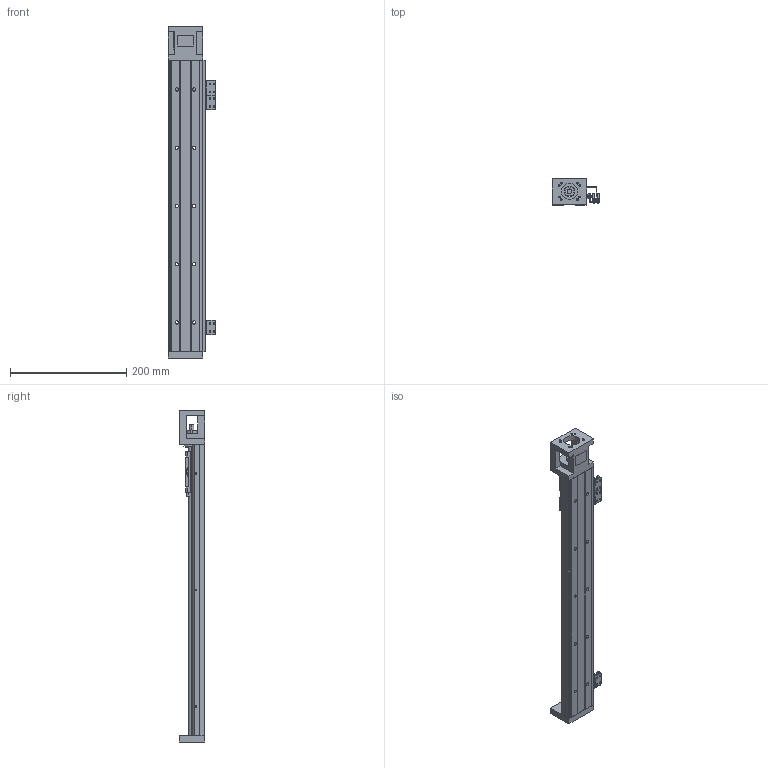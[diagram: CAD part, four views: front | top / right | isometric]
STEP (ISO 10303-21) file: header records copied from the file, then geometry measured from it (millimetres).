
FILE_DESCRIPTION (( 'STEP AP203' ), '1' );
FILE_NAME ('KH60D10C-500A1-F0S2.STEP', '2023-12-27T06:13:27', ( '' ), ( '' ), 'SwSTEP 2.0', 'SolidWorks 2016', '' );
FILE_SCHEMA (( 'CONFIG_CONTROL_DESIGN' ));
Length unit declared in the file: millimetre
Products named in the file (43): PM-Y65; 鞠褒蹟譫M3; 綴釱; 囀鞠褒す埴芛蹟隊M3℅5; KK60-04-07G; KK60-08-01; 000; 囀鞠褒す埴芛蹟隊M3℅4; KH60-500; 錨璃2; KH60D10C-500A1-F0S2; B-KK60-A1-F0C; KH86-08-(SX674); KH86-08-SX674
Assembly tree (25 placements, depth 3):
  PM-Y65
  鞠褒蹟譫M3
  囀鞠褒す埴芛蹟隊M3℅5
  鞠褒蹟譫M3
  綴釱
Bounding box: 82.4 x 44.5 x 570 mm (x, y, z)
Volume: 575684.6 mm3; surface area: 185108.7 mm2
Topology: 18 solids, 54 shells, 1942 faces, 5040 edges, 3236 vertices
Faces by surface type: plane 997, cylinder 347, bspline 314, cone 284
Entity records: 45578 total; most frequent: CARTESIAN_POINT 12230, ORIENTED_EDGE 6610, DIRECTION 5118, EDGE_CURVE 3310, VERTEX_POINT 2184, VECTOR 2150, LINE 2150, AXIS2_PLACEMENT_3D 1484
